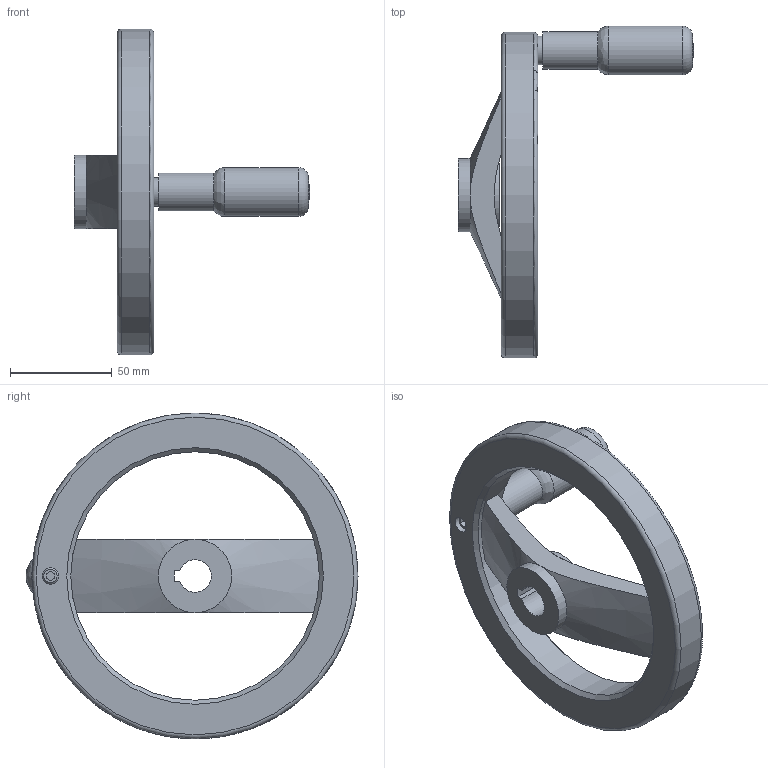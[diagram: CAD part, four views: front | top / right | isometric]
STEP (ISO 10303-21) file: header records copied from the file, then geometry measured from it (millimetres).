
FILE_DESCRIPTION( ( 'STEP AP203' ), '1' );
FILE_NAME( 'C:/Temp/Ganter_Step_05_03_2020/data/1_3/gn_324/gn_324_k/gn_324_k_d/Handwheel, matt black GN 324-160-K16-R.stp', '2020-03-05T10:33:03', ( 'License CC BY-ND 4.0' ), ( 'CADENAS' ), ' ', 'PARTsolutions', ' ' );
FILE_SCHEMA( ( 'CONFIG_CONTROL_DESIGN' ) );
Length unit declared in the file: millimetre
Products named in the file (1): _Handwheel, matt black GN 324-160-K16-R
Bounding box: 115.5 x 163 x 160 mm (x, y, z)
Volume: 227513.5 mm3; surface area: 49624.9 mm2
Topology: 1 solids, 2 shells, 43 faces, 99 edges, 61 vertices
Faces by surface type: plane 19, cylinder 11, cone 8, torus 3, sphere 1, bspline 1
Full cylindrical faces by diameter (mm): 6.446 x1, 8 x2, 14 x1, 18.5 x1, 24 x1, 36 x2, 122 x1, 160 x1
Entity records: 1271 total; most frequent: CARTESIAN_POINT 345, DIRECTION 186, ORIENTED_EDGE 148, AXIS2_PLACEMENT_3D 77, EDGE_CURVE 74, EDGE_LOOP 71, FACE_OUTER_BOUND 57, VERTEX_POINT 56
